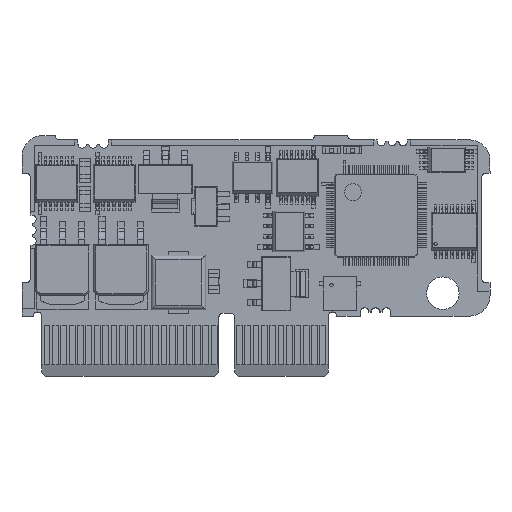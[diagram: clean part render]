
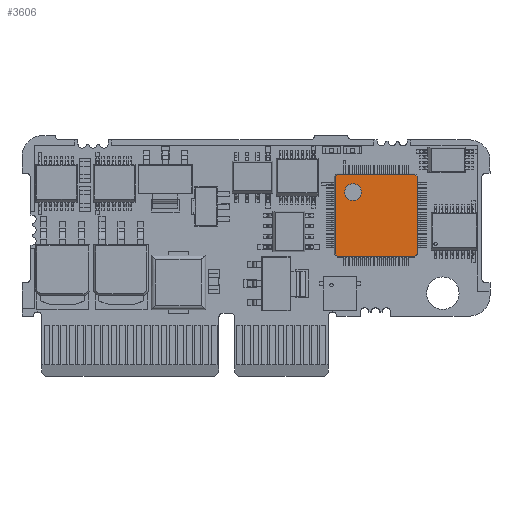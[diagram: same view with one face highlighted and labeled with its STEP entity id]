
A CAD part, top view. The second image highlights one B-rep face of the part: STEP entity #3606.
In plain terms, the highlighted planar face has unit normal (0, 0, 1).
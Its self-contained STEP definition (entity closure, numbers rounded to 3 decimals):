
#748 = VECTOR ( 'NONE', #140523, 1000. ) ;
#1018 = ORIENTED_EDGE ( 'NONE', *, *, #128447, .T. ) ;
#3606 = ADVANCED_FACE ( 'NONE', ( #160623, #164587 ), #113139, .T. ) ;
#4555 = EDGE_CURVE ( 'NONE', #130707, #19934, #92047, .T. ) ;
#6220 = VECTOR ( 'NONE', #87336, 1000. ) ;
#6313 = CARTESIAN_POINT ( 'NONE',  ( 11.45, -0.923, 1.632 ) ) ;
#6887 = DIRECTION ( 'NONE',  ( -1., 0., 0. ) ) ;
#9854 = AXIS2_PLACEMENT_3D ( 'NONE', #54640, #143785, #67454 ) ;
#10196 = LINE ( 'NONE', #163665, #6220 ) ;
#12701 = VERTEX_POINT ( 'NONE', #76210 ) ;
#14438 = VERTEX_POINT ( 'NONE', #6313 ) ;
#15632 = CARTESIAN_POINT ( 'NONE',  ( 11.715, -1.224, 1.632 ) ) ;
#17852 = VERTEX_POINT ( 'NONE', #18478 ) ;
#18478 = CARTESIAN_POINT ( 'NONE',  ( 20.972, -1.224, 1.632 ) ) ;
#19934 = VERTEX_POINT ( 'NONE', #105874 ) ;
#20816 = CIRCLE ( 'NONE', #22853, 1. ) ;
#22853 = AXIS2_PLACEMENT_3D ( 'NONE', #27856, #116981, #40707 ) ;
#26386 = ORIENTED_EDGE ( 'NONE', *, *, #124421, .T. ) ;
#26499 = EDGE_CURVE ( 'NONE', #14438, #35466, #10196, .T. ) ;
#27594 = VECTOR ( 'NONE', #28409, 1000. ) ;
#27856 = CARTESIAN_POINT ( 'NONE',  ( 13.601, 6.448, 1.632 ) ) ;
#28409 = DIRECTION ( 'NONE',  ( 1., 0., 0. ) ) ;
#32251 = EDGE_CURVE ( 'NONE', #17852, #159940, #102455, .T. ) ;
#34439 = DIRECTION ( 'NONE',  ( 0., 1., 0. ) ) ;
#34456 = CARTESIAN_POINT ( 'NONE',  ( 11.424, 8.271, 1.632 ) ) ;
#35466 = VERTEX_POINT ( 'NONE', #107588 ) ;
#37952 = CARTESIAN_POINT ( 'NONE',  ( 21.299, -0.897, 1.632 ) ) ;
#40707 = DIRECTION ( 'NONE',  ( 0., -1., 0. ) ) ;
#43064 = ORIENTED_EDGE ( 'NONE', *, *, #63445, .T. ) ;
#44325 = LINE ( 'NONE', #48684, #104093 ) ;
#47041 = EDGE_LOOP ( 'NONE', ( #92251, #157131 ) ) ;
#47603 = EDGE_CURVE ( 'NONE', #19934, #130707, #20816, .T. ) ;
#48684 = CARTESIAN_POINT ( 'NONE',  ( 20.946, 8.625, 1.632 ) ) ;
#51891 = DIRECTION ( 'NONE',  ( 0., -1., 0. ) ) ;
#54640 = CARTESIAN_POINT ( 'NONE',  ( 13.601, 6.448, 1.632 ) ) ;
#55468 = ORIENTED_EDGE ( 'NONE', *, *, #32251, .T. ) ;
#57778 = CARTESIAN_POINT ( 'NONE',  ( 11.752, 8.599, 1.632 ) ) ;
#58216 = DIRECTION ( 'NONE',  ( 0., 0., 1. ) ) ;
#62433 = LINE ( 'NONE', #34456, #130148 ) ;
#63438 = CARTESIAN_POINT ( 'NONE',  ( 13.601, 7.448, 1.632 ) ) ;
#63445 = EDGE_CURVE ( 'NONE', #74825, #75223, #127574, .T. ) ;
#63598 = ORIENTED_EDGE ( 'NONE', *, *, #158832, .T. ) ;
#65677 = ORIENTED_EDGE ( 'NONE', *, *, #26499, .T. ) ;
#67454 = DIRECTION ( 'NONE',  ( 0., -1., 0. ) ) ;
#74825 = VERTEX_POINT ( 'NONE', #100253 ) ;
#75223 = VERTEX_POINT ( 'NONE', #57778 ) ;
#75911 = EDGE_CURVE ( 'NONE', #12701, #74825, #44325, .T. ) ;
#76013 = VERTEX_POINT ( 'NONE', #127720 ) ;
#76210 = CARTESIAN_POINT ( 'NONE',  ( 21.274, 8.297, 1.632 ) ) ;
#85971 = ORIENTED_EDGE ( 'NONE', *, *, #75911, .T. ) ;
#87336 = DIRECTION ( 'NONE',  ( 0.707, -0.707, 0. ) ) ;
#89797 = LINE ( 'NONE', #128184, #135655 ) ;
#92047 = CIRCLE ( 'NONE', #9854, 1. ) ;
#92251 = ORIENTED_EDGE ( 'NONE', *, *, #47603, .F. ) ;
#95434 = LINE ( 'NONE', #15632, #27594 ) ;
#100253 = CARTESIAN_POINT ( 'NONE',  ( 20.972, 8.599, 1.632 ) ) ;
#102455 = LINE ( 'NONE', #37952, #748 ) ;
#104093 = VECTOR ( 'NONE', #150706, 1000. ) ;
#105874 = CARTESIAN_POINT ( 'NONE',  ( 13.601, 5.448, 1.632 ) ) ;
#107588 = CARTESIAN_POINT ( 'NONE',  ( 11.752, -1.224, 1.632 ) ) ;
#113139 = PLANE ( 'NONE',  #117488 ) ;
#116639 = CARTESIAN_POINT ( 'NONE',  ( 21.274, -0.923, 1.632 ) ) ;
#116981 = DIRECTION ( 'NONE',  ( 0., 0., 1. ) ) ;
#117488 = AXIS2_PLACEMENT_3D ( 'NONE', #134522, #58216, #147402 ) ;
#123635 = VECTOR ( 'NONE', #34439, 1000. ) ;
#124117 = CARTESIAN_POINT ( 'NONE',  ( 21.274, 8.334, 1.632 ) ) ;
#124421 = EDGE_CURVE ( 'NONE', #35466, #17852, #95434, .T. ) ;
#127574 = LINE ( 'NONE', #146803, #153543 ) ;
#127642 = LINE ( 'NONE', #124117, #123635 ) ;
#127720 = CARTESIAN_POINT ( 'NONE',  ( 11.45, 8.297, 1.632 ) ) ;
#128184 = CARTESIAN_POINT ( 'NONE',  ( 11.45, 8.334, 1.632 ) ) ;
#128447 = EDGE_CURVE ( 'NONE', #75223, #76013, #62433, .T. ) ;
#130148 = VECTOR ( 'NONE', #135302, 1000. ) ;
#130581 = EDGE_CURVE ( 'NONE', #159940, #12701, #127642, .T. ) ;
#130707 = VERTEX_POINT ( 'NONE', #63438 ) ;
#134522 = CARTESIAN_POINT ( 'NONE',  ( 16.362, 13.334, 1.632 ) ) ;
#135302 = DIRECTION ( 'NONE',  ( -0.707, -0.707, 0. ) ) ;
#135655 = VECTOR ( 'NONE', #51891, 1000. ) ;
#140523 = DIRECTION ( 'NONE',  ( 0.707, 0.707, 0. ) ) ;
#143785 = DIRECTION ( 'NONE',  ( 0., 0., 1. ) ) ;
#146803 = CARTESIAN_POINT ( 'NONE',  ( 11.715, 8.599, 1.632 ) ) ;
#147402 = DIRECTION ( 'NONE',  ( 0., -1., 0. ) ) ;
#150706 = DIRECTION ( 'NONE',  ( -0.707, 0.707, 0. ) ) ;
#153342 = EDGE_LOOP ( 'NONE', ( #85971, #43064, #1018, #63598, #65677, #26386, #55468, #164127 ) ) ;
#153543 = VECTOR ( 'NONE', #6887, 1000. ) ;
#157131 = ORIENTED_EDGE ( 'NONE', *, *, #4555, .F. ) ;
#158832 = EDGE_CURVE ( 'NONE', #76013, #14438, #89797, .T. ) ;
#159940 = VERTEX_POINT ( 'NONE', #116639 ) ;
#160623 = FACE_BOUND ( 'NONE', #47041, .T. ) ;
#163665 = CARTESIAN_POINT ( 'NONE',  ( 11.424, -0.897, 1.632 ) ) ;
#164127 = ORIENTED_EDGE ( 'NONE', *, *, #130581, .T. ) ;
#164587 = FACE_OUTER_BOUND ( 'NONE', #153342, .T. ) ;
